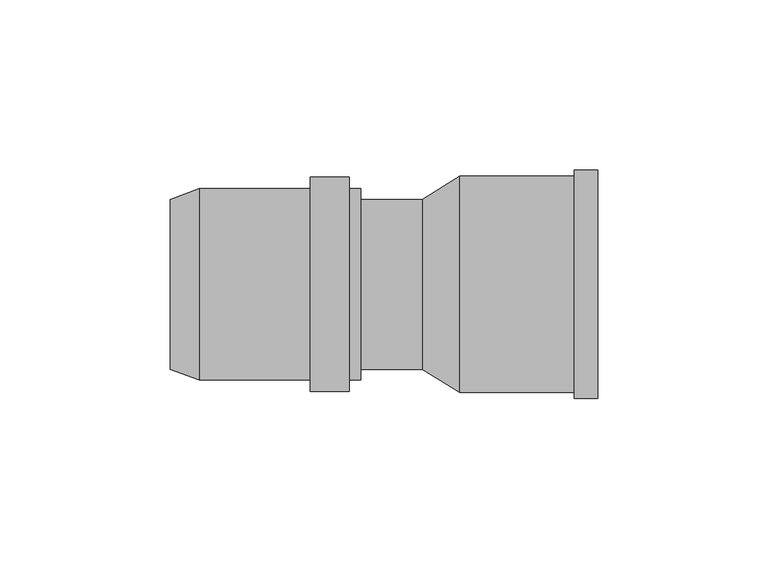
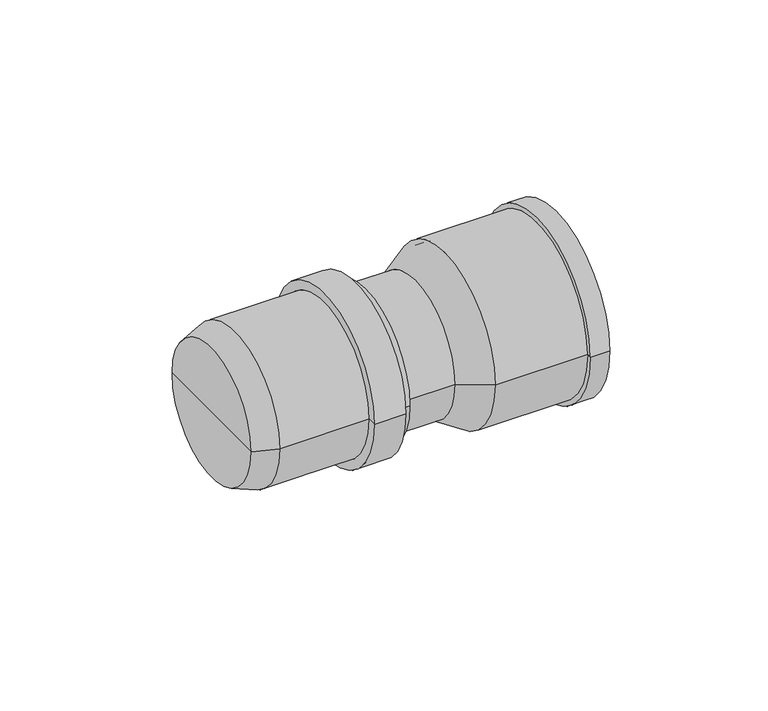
"""IFC4 building model written with IfcOpenShell, lengths in millimetres: pipe fitting geometry, pf_HTS : pf_HTS."""

from ifc_helpers import new_model, si_unit, point, frame, origin, origin_2d, place, context, project, spatial, polyline, circle_curve, trimmed, segment, composite_curve, outline, extrude, source, transform, mapped, element, save
from ifc_brep_helpers import plane_surface, cylinder_surface, revolved_surface, advanced_brep


def pipe_fitting_28f08a16(model_context):
    return source(origin(), model_context, "Body", "SolidModel", [
        advanced_brep(
        [(-74.1, -25.0, 0.0), (-74.1, 25.0, 0.0), (-65.6, 28.1, 0.0), (-65.6, -28.1, 0.0), (-74.1, 0.0, 0.0), (-18.1, -28.1, 0.0), (-18.1, 28.1, 0.0), (-18.1, 25.0, 0.0), (-18.1, -25.0, 0.0), (-21.5, -28.1, 0.0), (-21.5, 28.1, 0.0), (-21.5, -31.5, 0.0), (-21.5, 31.5, 0.0), (-32.9, -31.5, 0.0), (-32.9, 31.5, 0.0), (-32.9, -28.1, 0.0), (-32.9, 28.1, 0.0), (-65.6, -25.0, 0.0), (-65.6, 25.0, 0.0), (-65.6, 0.0, 0.0)],
        [
            (0, 1, circle_curve(frame((-74.1, 0.0, 0.0), z_axis=(1.0, 0.0, 0.0), x_axis=(0.0, 1.0, 0.0)), 25.0)),
            (1, 2),
            (2, 3, circle_curve(frame((-65.6, 0.0, 0.0), z_axis=(-1.0, 0.0, 0.0), x_axis=(0.0, 1.0, 0.0)), 28.1)),
            (3, 0),
            (1, 0, circle_curve(frame((-74.1, 0.0, 0.0), z_axis=(1.0, 0.0, 0.0), x_axis=(0.0, 1.0, 0.0)), 25.0)),
            (3, 2, circle_curve(frame((-65.6, 0.0, 0.0), z_axis=(-1.0, 0.0, 0.0), x_axis=(0.0, 1.0, 0.0)), 28.1)),
            (4, 1),
            (0, 4),
            (5, 6, circle_curve(frame((-18.1, 0.0, 0.0), z_axis=(1.0, 0.0, 0.0), x_axis=(0.0, 1.0, 0.0)), 28.1)),
            (6, 7),
            (7, 8, circle_curve(frame((-18.1, 0.0, 0.0), z_axis=(-1.0, 0.0, 0.0), x_axis=(0.0, 1.0, 0.0)), 25.0)),
            (8, 5),
            (6, 5, circle_curve(frame((-18.1, 0.0, 0.0), z_axis=(1.0, 0.0, 0.0), x_axis=(0.0, 1.0, 0.0)), 28.1)),
            (8, 7, circle_curve(frame((-18.1, 0.0, 0.0), z_axis=(-1.0, 0.0, 0.0), x_axis=(0.0, 1.0, 0.0)), 25.0)),
            (9, 10, circle_curve(frame((-21.5, 0.0, 0.0), z_axis=(1.0, 0.0, 0.0), x_axis=(0.0, 1.0, 0.0)), 28.1)),
            (10, 6),
            (5, 9),
            (10, 9, circle_curve(frame((-21.5, 0.0, 0.0), z_axis=(1.0, 0.0, 0.0), x_axis=(0.0, 1.0, 0.0)), 28.1)),
            (11, 12, circle_curve(frame((-21.5, 0.0, 0.0), z_axis=(1.0, 0.0, 0.0), x_axis=(0.0, 1.0, 0.0)), 31.5)),
            (12, 10),
            (9, 11),
            (12, 11, circle_curve(frame((-21.5, 0.0, 0.0), z_axis=(1.0, 0.0, 0.0), x_axis=(0.0, 1.0, 0.0)), 31.5)),
            (13, 14, circle_curve(frame((-32.9, 0.0, 0.0), z_axis=(1.0, 0.0, 0.0), x_axis=(0.0, 1.0, 0.0)), 31.5)),
            (14, 12),
            (11, 13),
            (14, 13, circle_curve(frame((-32.9, 0.0, 0.0), z_axis=(1.0, 0.0, 0.0), x_axis=(0.0, 1.0, 0.0)), 31.5)),
            (15, 16, circle_curve(frame((-32.9, 0.0, 0.0), z_axis=(1.0, 0.0, 0.0), x_axis=(0.0, 1.0, 0.0)), 28.1)),
            (16, 14),
            (13, 15),
            (16, 15, circle_curve(frame((-32.9, 0.0, 0.0), z_axis=(1.0, 0.0, 0.0), x_axis=(0.0, 1.0, 0.0)), 28.1)),
            (2, 16),
            (15, 3),
            (17, 18, circle_curve(frame((-65.6, 0.0, 0.0), z_axis=(1.0, 0.0, 0.0), x_axis=(0.0, 1.0, 0.0)), 25.0)),
            (18, 19),
            (19, 17),
            (18, 17, circle_curve(frame((-65.6, 0.0, 0.0), z_axis=(1.0, 0.0, 0.0), x_axis=(0.0, 1.0, 0.0)), 25.0)),
            (7, 18),
            (17, 8),
        ],
        [
            revolved_surface(polyline([(-65.6, 28.1, 0.0), (-74.1, 25.0, 0.0)]), (-74.1, 0.0, 0.0), (-1.0, 0.0, 0.0)),
            plane_surface(frame((-74.1, 0.0, 0.0), z_axis=(-1.0, 0.0, 0.0), x_axis=(0.0, 1.0, 0.0))),
            plane_surface(frame((-18.1, 0.0, 0.0), z_axis=(1.0, 0.0, 0.0), x_axis=(0.0, 1.0, 0.0))),
            cylinder_surface(frame((-74.1, 0.0, 0.0), z_axis=(-1.0, 0.0, 0.0), x_axis=(0.0, 1.0, 0.0)), 28.1),
            plane_surface(frame((-21.5, 0.0, 0.0), z_axis=(1.0, 0.0, 0.0), x_axis=(0.0, 1.0, 0.0))),
            cylinder_surface(frame((-74.1, 0.0, 0.0), z_axis=(-1.0, 0.0, 0.0), x_axis=(0.0, 1.0, 0.0)), 31.5),
            plane_surface(frame((-32.9, 0.0, 0.0), z_axis=(-1.0, 0.0, 0.0), x_axis=(0.0, 1.0, 0.0))),
            plane_surface(frame((-65.6, 0.0, 0.0), z_axis=(1.0, 0.0, 0.0), x_axis=(0.0, 1.0, 0.0))),
            revolved_surface(polyline([(-65.6, 25.0, 0.0), (-18.1, 25.0, 0.0)]), (-74.1, 0.0, 0.0), (-1.0, 0.0, 0.0)),
        ],
        [
            (0, [[1, 2, 3, 4]]),
            (0, [[5, -4, 6, -2]]),
            (1, [[7, -1, 8]]),
            (1, [[-8, -5, -7]]),
            (2, [[9, 10, 11, 12]]),
            (2, [[13, -12, 14, -10]]),
            (3, [[15, 16, -9, 17]]),
            (3, [[18, -17, -13, -16]]),
            (4, [[19, 20, -15, 21]]),
            (4, [[22, -21, -18, -20]]),
            (5, [[23, 24, -19, 25]]),
            (5, [[26, -25, -22, -24]]),
            (6, [[27, 28, -23, 29]]),
            (6, [[30, -29, -26, -28]]),
            (3, [[-3, 31, -27, 32]]),
            (3, [[-6, -32, -30, -31]]),
            (7, [[33, 34, 35]]),
            (7, [[36, -35, -34]]),
            (8, [[-11, 37, -33, 38]]),
            (8, [[-14, -38, -36, -37]]),
        ],
    ),
        extrude(outline(composite_curve([segment(trimmed(circle_curve(origin_2d(), 25.0), [point((-25.0, 0.0))], [point((25.0, 0.0))], False, "CARTESIAN"), True, "CONTINUOUS"), segment(trimmed(circle_curve(origin_2d(), 25.0), [point((25.0, 0.0))], [point((-25.0, 0.0))], False, "CARTESIAN"), True, "CONTINUOUS")], self_intersect=False)), frame((-18.1, 0.0, 0.0), z_axis=(1.0, 0.0, 0.0), x_axis=(0.0, 1.0, 0.0)), (0.0, 0.0, 1.0), 18.1),
        advanced_brep(
        [(51.5, -30.0, 0.0), (51.5, 30.0, 0.0), (11.0, 30.0, 0.0), (11.0, -30.0, 0.0), (51.5, -33.6, 0.0), (51.5, 33.6, 0.0), (11.0, -31.8, 0.0), (11.0, 31.8, 0.0), (44.5184027, 31.8, 0.0), (44.5184027, -31.8, 0.0), (0.0, -25.0, 0.0), (0.0, 25.0, 0.0), (0.0, 0.0, 0.0), (44.5184027, 33.6, 0.0), (44.5184027, -33.6, 0.0), (11.0, 0.0, 0.0)],
        [
            (0, 1, circle_curve(frame((51.5, 0.0, 0.0), z_axis=(1.0, 0.0, 0.0), x_axis=(0.0, 1.0, 0.0)), 30.0)),
            (1, 2),
            (2, 3, circle_curve(frame((11.0, 0.0, 0.0), z_axis=(-1.0, 0.0, 0.0), x_axis=(0.0, 1.0, 0.0)), 30.0)),
            (3, 0),
            (4, 5, circle_curve(frame((51.5, 0.0, 0.0), z_axis=(1.0, 0.0, 0.0), x_axis=(0.0, 1.0, 0.0)), 33.6)),
            (5, 1),
            (0, 4),
            (6, 7, circle_curve(frame((11.0, 0.0, 0.0), z_axis=(1.0, 0.0, 0.0), x_axis=(0.0, 1.0, 0.0)), 31.8)),
            (7, 8),
            (8, 9, circle_curve(frame((44.5184027, 0.0, 0.0), z_axis=(-1.0, 0.0, 0.0), x_axis=(0.0, 1.0, 0.0)), 31.8)),
            (9, 6),
            (10, 11, circle_curve(frame((0.0, 0.0, 0.0), z_axis=(1.0, 0.0, 0.0), x_axis=(0.0, 1.0, 0.0)), 25.0)),
            (11, 7),
            (6, 10),
            (12, 11),
            (10, 12),
            (8, 13),
            (13, 14, circle_curve(frame((44.5184027, 0.0, 0.0), z_axis=(-1.0, 0.0, 0.0), x_axis=(0.0, 1.0, 0.0)), 33.6)),
            (14, 9),
            (1, 0, circle_curve(frame((51.5, 0.0, 0.0), z_axis=(1.0, 0.0, 0.0), x_axis=(0.0, 1.0, 0.0)), 30.0)),
            (3, 2, circle_curve(frame((11.0, 0.0, 0.0), z_axis=(-1.0, 0.0, 0.0), x_axis=(0.0, 1.0, 0.0)), 30.0)),
            (5, 4, circle_curve(frame((51.5, 0.0, 0.0), z_axis=(1.0, 0.0, 0.0), x_axis=(0.0, 1.0, 0.0)), 33.6)),
            (13, 5),
            (4, 14),
            (13, 14, circle_curve(frame((44.5184027, 0.0, 0.0), z_axis=(1.0, 0.0, 0.0), x_axis=(0.0, 1.0, 0.0)), 33.6)),
            (8, 9, circle_curve(frame((44.5184027, 0.0, 0.0), z_axis=(1.0, 0.0, 0.0), x_axis=(0.0, 1.0, 0.0)), 31.8)),
            (7, 6, circle_curve(frame((11.0, 0.0, 0.0), z_axis=(1.0, 0.0, 0.0), x_axis=(0.0, 1.0, 0.0)), 31.8)),
            (11, 10, circle_curve(frame((0.0, 0.0, 0.0), z_axis=(1.0, 0.0, 0.0), x_axis=(0.0, 1.0, 0.0)), 25.0)),
            (2, 15),
            (15, 3),
        ],
        [
            revolved_surface(polyline([(11.0, 30.0, 0.0), (51.5, 30.0, 0.0)]), (57.5, 0.0, 0.0), (-1.0, 0.0, 0.0)),
            plane_surface(frame((51.5, 0.0, 0.0), z_axis=(1.0, 0.0, 0.0), x_axis=(0.0, 1.0, 0.0))),
            cylinder_surface(frame((57.5, 0.0, 0.0), z_axis=(-1.0, 0.0, 0.0), x_axis=(0.0, 1.0, 0.0)), 31.8),
            revolved_surface(polyline([(11.0, 31.8, 0.0), (0.0, 25.0, 0.0)]), (57.5, 0.0, 0.0), (-1.0, 0.0, 0.0)),
            plane_surface(frame((0.0, 0.0, 0.0), z_axis=(-1.0, 0.0, 0.0), x_axis=(0.0, 1.0, 0.0))),
            plane_surface(frame((44.5184027, 0.0, 0.0), z_axis=(-1.0, 0.0, 0.0), x_axis=(0.0, 1.0, 0.0))),
            cylinder_surface(frame((57.5, 0.0, 0.0), z_axis=(-1.0, 0.0, 0.0), x_axis=(0.0, 1.0, 0.0)), 33.6),
            plane_surface(frame((11.0, 0.0, 0.0), z_axis=(1.0, 0.0, 0.0), x_axis=(0.0, 1.0, 0.0))),
        ],
        [
            (0, [[1, 2, 3, 4]]),
            (1, [[5, 6, -1, 7]]),
            (2, [[8, 9, 10, 11]]),
            (3, [[12, 13, -8, 14]]),
            (4, [[15, -12, 16]]),
            (5, [[-10, 17, 18, 19]]),
            (0, [[20, -4, 21, -2]]),
            (1, [[22, -7, -20, -6]]),
            (6, [[-18, 23, -5, 24]]),
            (6, [[25, -24, -22, -23]]),
            (5, [[26, -19, -25, -17]]),
            (2, [[27, -11, -26, -9]]),
            (3, [[28, -14, -27, -13]]),
            (4, [[-16, -28, -15]]),
            (7, [[-3, 29, 30]]),
            (7, [[-21, -30, -29]]),
        ],
    ),
    ])


if __name__ == "__main__":
    model = new_model("IFC4")
    model_context = context("Model", 3, world=origin())
    ifc_project = project(units=[si_unit("LENGTHUNIT", "METRE", prefix="MILLI")], contexts=[model_context])
    site = spatial("IfcSite", under=ifc_project)
    building = spatial("IfcBuilding", under=site)
    placement = place(None, origin())
    pipe_fitting_shape = pipe_fitting_28f08a16(model_context)
    element("IfcPipeFitting", 1, ObjectType="pf_HTS : pf_HTS", at=placement, inside=building, context=model_context, shape_type="MappedRepresentation", body=[
        mapped(pipe_fitting_shape, transform((0.0, 0.0, 0.0), x_axis=(1.0, 0.0, 0.0), y_axis=(0.0, 1.0, 0.0), z_axis=(0.0, 0.0, 1.0))),
    ])
    save(model, "model.ifc")
